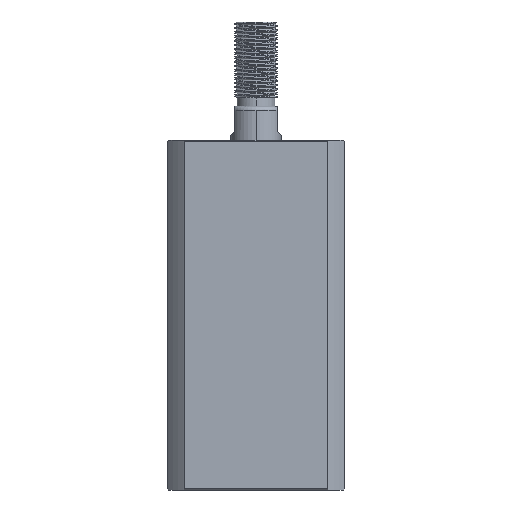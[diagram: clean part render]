
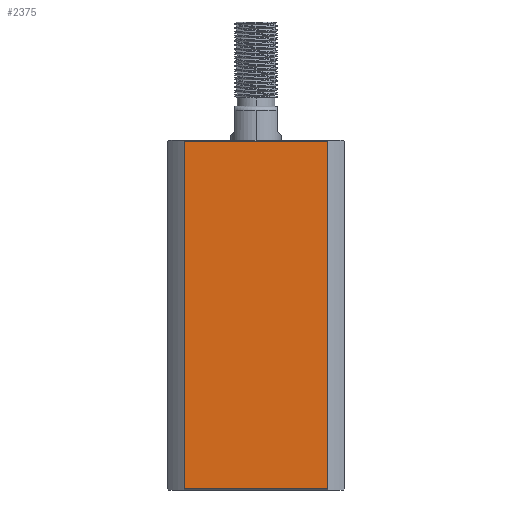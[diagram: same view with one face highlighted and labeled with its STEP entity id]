
A CAD part, left-side view. The second image highlights one B-rep face of the part: STEP entity #2375.
In plain terms, the highlighted planar face has unit normal (-1, 0, 0).
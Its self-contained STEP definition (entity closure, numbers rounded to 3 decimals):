
#536 = CARTESIAN_POINT ( 'NONE',  ( -21., -16.971, 0.3 ) ) ;
#776 = CARTESIAN_POINT ( 'NONE',  ( -21., -16.971, 82.7 ) ) ;
#1671 = VERTEX_POINT ( 'NONE', #14699 ) ;
#1934 = VERTEX_POINT ( 'NONE', #776 ) ;
#2375 = ADVANCED_FACE ( 'NONE', ( #2977 ), #14187, .F. ) ;
#2397 = ORIENTED_EDGE ( 'NONE', *, *, #5491, .T. ) ;
#2561 = DIRECTION ( 'NONE',  ( 1., 0., 0. ) ) ;
#2977 = FACE_OUTER_BOUND ( 'NONE', #8956, .T. ) ;
#3168 = VECTOR ( 'NONE', #7640, 1000. ) ;
#3657 = CARTESIAN_POINT ( 'NONE',  ( -21., 21., 83. ) ) ;
#3826 = CARTESIAN_POINT ( 'NONE',  ( -21., 21., 82.7 ) ) ;
#4248 = VECTOR ( 'NONE', #12941, 1000. ) ;
#4290 = VERTEX_POINT ( 'NONE', #4562 ) ;
#4562 = CARTESIAN_POINT ( 'NONE',  ( -21., 16.971, 0.3 ) ) ;
#4951 = ORIENTED_EDGE ( 'NONE', *, *, #8922, .T. ) ;
#5129 = VERTEX_POINT ( 'NONE', #536 ) ;
#5491 = EDGE_CURVE ( 'NONE', #1934, #1671, #13057, .T. ) ;
#5812 = ORIENTED_EDGE ( 'NONE', *, *, #10280, .F. ) ;
#6002 = CARTESIAN_POINT ( 'NONE',  ( -21., 16.971, -217. ) ) ;
#6868 = VECTOR ( 'NONE', #7362, 1000. ) ;
#7356 = LINE ( 'NONE', #13469, #3168 ) ;
#7362 = DIRECTION ( 'NONE',  ( 0., 1., 0. ) ) ;
#7640 = DIRECTION ( 'NONE',  ( 0., 0., -1. ) ) ;
#7882 = VECTOR ( 'NONE', #14299, 1000. ) ;
#8441 = ORIENTED_EDGE ( 'NONE', *, *, #9211, .F. ) ;
#8922 = EDGE_CURVE ( 'NONE', #4290, #5129, #13571, .T. ) ;
#8956 = EDGE_LOOP ( 'NONE', ( #5812, #4951, #8441, #2397 ) ) ;
#9211 = EDGE_CURVE ( 'NONE', #1934, #5129, #7356, .T. ) ;
#10280 = EDGE_CURVE ( 'NONE', #4290, #1671, #14088, .T. ) ;
#10700 = DIRECTION ( 'NONE',  ( 0., 1., 0. ) ) ;
#11777 = CARTESIAN_POINT ( 'NONE',  ( -21., 21., 0.3 ) ) ;
#12941 = DIRECTION ( 'NONE',  ( 0., -1., 0. ) ) ;
#13047 = AXIS2_PLACEMENT_3D ( 'NONE', #3657, #2561, #10700 ) ;
#13057 = LINE ( 'NONE', #3826, #6868 ) ;
#13469 = CARTESIAN_POINT ( 'NONE',  ( -21., -16.971, -217. ) ) ;
#13571 = LINE ( 'NONE', #11777, #4248 ) ;
#14088 = LINE ( 'NONE', #6002, #7882 ) ;
#14187 = PLANE ( 'NONE',  #13047 ) ;
#14299 = DIRECTION ( 'NONE',  ( 0., 0., 1. ) ) ;
#14699 = CARTESIAN_POINT ( 'NONE',  ( -21., 16.971, 82.7 ) ) ;
